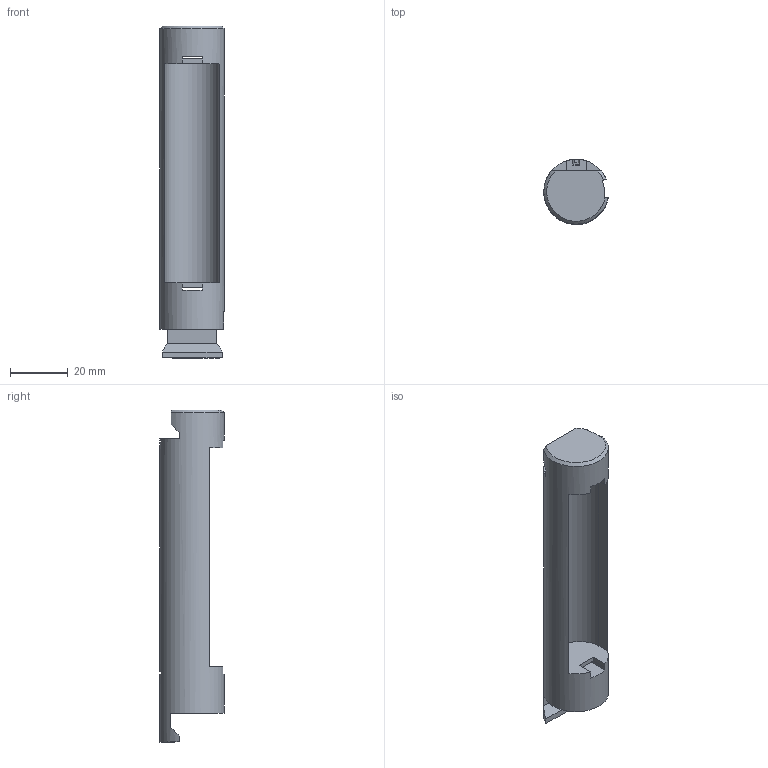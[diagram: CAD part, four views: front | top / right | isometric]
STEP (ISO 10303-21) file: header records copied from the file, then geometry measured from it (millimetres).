
FILE_DESCRIPTION(('FreeCAD Model'),'2;1');
FILE_NAME('Open CASCADE Shape Model','2026-01-26T19:11:18',(''),(''), 'Open CASCADE STEP processor 7.8','FreeCAD','Unknown');
FILE_SCHEMA(('AUTOMOTIVE_DESIGN { 1 0 10303 214 1 1 1 1 }'));
Length unit declared in the file: millimetre
Products named in the file (1): battery_insert
Bounding box: 22.3 x 22.5 x 115 mm (x, y, z)
Volume: 17262.9 mm3; surface area: 11588.4 mm2
Topology: 1 solids, 1 shells, 59 faces, 173 edges, 113 vertices
Faces by surface type: plane 48, cylinder 6, cone 5
Entity records: 2007 total; most frequent: CARTESIAN_POINT 364, ORIENTED_EDGE 346, DIRECTION 343, EDGE_CURVE 173, LINE 119, VECTOR 119, VERTEX_POINT 113, AXIS2_PLACEMENT_3D 112
